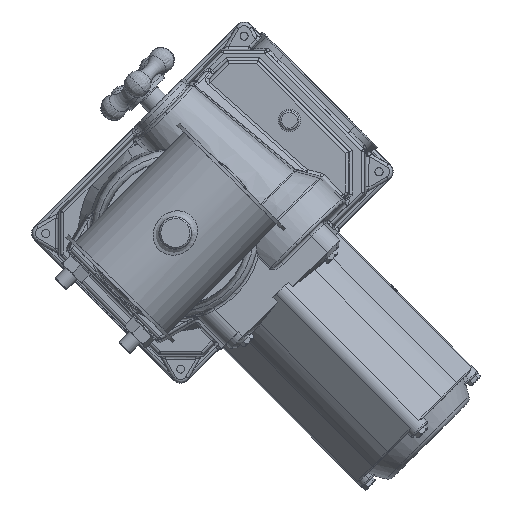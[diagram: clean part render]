
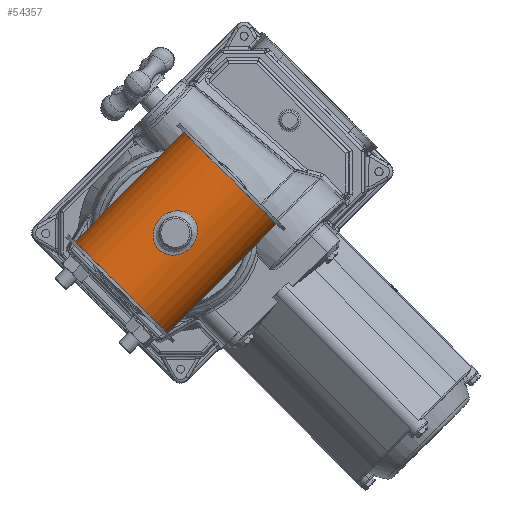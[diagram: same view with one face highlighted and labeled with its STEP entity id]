
A CAD part, top view. The second image highlights one B-rep face of the part: STEP entity #54357.
In plain terms, the highlighted cylindrical face has radius 40.5 mm (diameter 81 mm), a full revolution.
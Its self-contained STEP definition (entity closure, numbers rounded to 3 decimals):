
#54248=CARTESIAN_POINT('',(38.34,13.05,50.293));
#54249=VERTEX_POINT('',#54248);
#54259=CARTESIAN_POINT('',(38.338,13.052,50.293));
#54260=CARTESIAN_POINT('',(38.338,13.052,52.465));
#54261=CARTESIAN_POINT('',(38.664,12.146,56.821));
#54262=CARTESIAN_POINT('',(39.707,8.439,61.984));
#54263=CARTESIAN_POINT('',(40.531,3.049,64.91));
#54264=CARTESIAN_POINT('',(40.535,-3.017,64.916));
#54265=CARTESIAN_POINT('',(39.71,-8.418,62.005));
#54266=CARTESIAN_POINT('',(38.785,-11.722,57.413));
#54267=CARTESIAN_POINT('',(38.325,-13.096,52.521));
#54268=CARTESIAN_POINT('',(38.322,-13.101,48.088));
#54269=CARTESIAN_POINT('',(38.852,-11.536,42.479));
#54270=CARTESIAN_POINT('',(39.848,-7.878,38.105));
#54271=CARTESIAN_POINT('',(40.532,-2.361,35.675));
#54272=CARTESIAN_POINT('',(40.532,3.029,35.672));
#54273=CARTESIAN_POINT('',(39.71,8.422,38.591));
#54274=CARTESIAN_POINT('',(38.666,12.14,43.744));
#54275=CARTESIAN_POINT('',(38.338,13.052,48.121));
#54276=CARTESIAN_POINT('',(38.338,13.052,50.293));
#54277=CARTESIAN_POINT('',(38.338,13.052,50.293));
#54278=CARTESIAN_POINT('',(38.338,13.052,50.293));
#54279=CARTESIAN_POINT('',(38.338,13.052,50.293));
#54280=B_SPLINE_CURVE_WITH_KNOTS('',3,(#54259,#54260,#54261,#54262,#54263,#54264,#54265,#54266,#54267,#54268,#54269,#54270,#54271,#54272,#54273,#54274,#54275,#54276,#54277,#54278,#54279),.UNSPECIFIED.,.T.,.U.,(4,1,1,1,1,1,1,1,1,1,1,1,1,1,1,3,4),(-6.054,-5.622,-5.189,-4.757,-4.324,-3.892,-3.459,-3.171,-2.883,-2.595,-2.018,-1.73,-1.297,-0.865,-0.432,0.0,0.),.UNSPECIFIED.);
#54281=EDGE_CURVE('',#54249,#54249,#54280,.T.);
#54286=CARTESIAN_POINT('',(0.0,0.0,0.0));
#54287=DIRECTION('',(0.0,0.0,1.0));
#54288=DIRECTION('',(-1.0,0.0,0.0));
#54289=AXIS2_PLACEMENT_3D('',#54286,#54287,#54288);
#54290=CYLINDRICAL_SURFACE('',#54289,40.5);
#54291=CARTESIAN_POINT('',(40.5,0.,98.0));
#54292=VERTEX_POINT('',#54291);
#54293=CARTESIAN_POINT('',(0.0,0.0,98.0));
#54294=DIRECTION('',(0.0,0.0,-1.0));
#54295=DIRECTION('',(-1.0,0.0,0.0));
#54296=AXIS2_PLACEMENT_3D('',#54293,#54294,#54295);
#54297=CIRCLE('',#54296,40.5);
#54298=EDGE_CURVE('',#54292,#54292,#54297,.T.);
#54299=ORIENTED_EDGE('',*,*,#54298,.T.);
#54300=EDGE_LOOP('',(#54299));
#54301=FACE_OUTER_BOUND('',#54300,.T.);
#54302=CARTESIAN_POINT('',(-40.5,0.,2.0));
#54303=VERTEX_POINT('',#54302);
#54304=CARTESIAN_POINT('',(0.0,0.0,2.0));
#54305=DIRECTION('',(0.0,0.0,1.0));
#54306=DIRECTION('',(-1.0,0.0,0.0));
#54307=AXIS2_PLACEMENT_3D('',#54304,#54305,#54306);
#54308=CIRCLE('',#54307,40.5);
#54309=EDGE_CURVE('',#54303,#54303,#54308,.T.);
#54310=ORIENTED_EDGE('',*,*,#54309,.T.);
#54311=EDGE_LOOP('',(#54310));
#54312=FACE_BOUND('',#54311,.T.);
#54313=CARTESIAN_POINT('',(-39.246,10.0,50.293));
#54314=VERTEX_POINT('',#54313);
#54315=CARTESIAN_POINT('',(-39.246,10.0,50.293));
#54316=CARTESIAN_POINT('',(-39.246,10.0,51.554));
#54317=CARTESIAN_POINT('',(-39.313,9.747,52.896));
#54318=CARTESIAN_POINT('',(-39.553,8.725,55.358));
#54319=CARTESIAN_POINT('',(-39.721,7.956,56.479));
#54320=CARTESIAN_POINT('',(-40.035,6.186,58.249));
#54321=CARTESIAN_POINT('',(-40.201,5.065,59.018));
#54322=CARTESIAN_POINT('',(-40.435,2.603,60.04));
#54323=CARTESIAN_POINT('',(-40.5,1.261,60.293));
#54324=CARTESIAN_POINT('',(-40.5,-1.261,60.293));
#54325=CARTESIAN_POINT('',(-40.435,-2.603,60.04));
#54326=CARTESIAN_POINT('',(-40.201,-5.065,59.018));
#54327=CARTESIAN_POINT('',(-40.035,-6.186,58.249));
#54328=CARTESIAN_POINT('',(-39.721,-7.956,56.479));
#54329=CARTESIAN_POINT('',(-39.553,-8.725,55.358));
#54330=CARTESIAN_POINT('',(-39.313,-9.747,52.896));
#54331=CARTESIAN_POINT('',(-39.246,-10.0,51.554));
#54332=CARTESIAN_POINT('',(-39.246,-10.0,49.032));
#54333=CARTESIAN_POINT('',(-39.313,-9.747,47.69));
#54334=CARTESIAN_POINT('',(-39.553,-8.725,45.228));
#54335=CARTESIAN_POINT('',(-39.721,-7.956,44.107));
#54336=CARTESIAN_POINT('',(-40.035,-6.186,42.337));
#54337=CARTESIAN_POINT('',(-40.201,-5.065,41.568));
#54338=CARTESIAN_POINT('',(-40.435,-2.603,40.546));
#54339=CARTESIAN_POINT('',(-40.5,-1.261,40.293));
#54340=CARTESIAN_POINT('',(-40.5,1.261,40.293));
#54341=CARTESIAN_POINT('',(-40.435,2.603,40.546));
#54342=CARTESIAN_POINT('',(-40.201,5.065,41.568));
#54343=CARTESIAN_POINT('',(-40.035,6.186,42.337));
#54344=CARTESIAN_POINT('',(-39.721,7.956,44.107));
#54345=CARTESIAN_POINT('',(-39.553,8.725,45.228));
#54346=CARTESIAN_POINT('',(-39.313,9.747,47.69));
#54347=CARTESIAN_POINT('',(-39.246,10.0,49.032));
#54348=CARTESIAN_POINT('',(-39.246,10.0,50.293));
#54349=B_SPLINE_CURVE_WITH_KNOTS('',3,(#54315,#54316,#54317,#54318,#54319,#54320,#54321,#54322,#54323,#54324,#54325,#54326,#54327,#54328,#54329,#54330,#54331,#54332,#54333,#54334,#54335,#54336,#54337,#54338,#54339,#54340,#54341,#54342,#54343,#54344,#54345,#54346,#54347,#54348),.UNSPECIFIED.,.T.,.U.,(4,2,2,2,2,2,2,2,2,2,2,2,2,2,2,2,4),(0.0,0.378,0.757,1.135,1.514,1.892,2.27,2.649,3.027,3.405,3.784,4.162,4.541,4.919,5.297,5.676,6.054),.UNSPECIFIED.);
#54350=EDGE_CURVE('',#54314,#54314,#54349,.T.);
#54351=ORIENTED_EDGE('',*,*,#54350,.T.);
#54352=EDGE_LOOP('',(#54351));
#54353=FACE_BOUND('',#54352,.T.);
#54354=ORIENTED_EDGE('',*,*,#54281,.F.);
#54355=EDGE_LOOP('',(#54354));
#54356=FACE_BOUND('',#54355,.T.);
#54357=ADVANCED_FACE('',(#54301,#54312,#54353,#54356),#54290,.T.);
